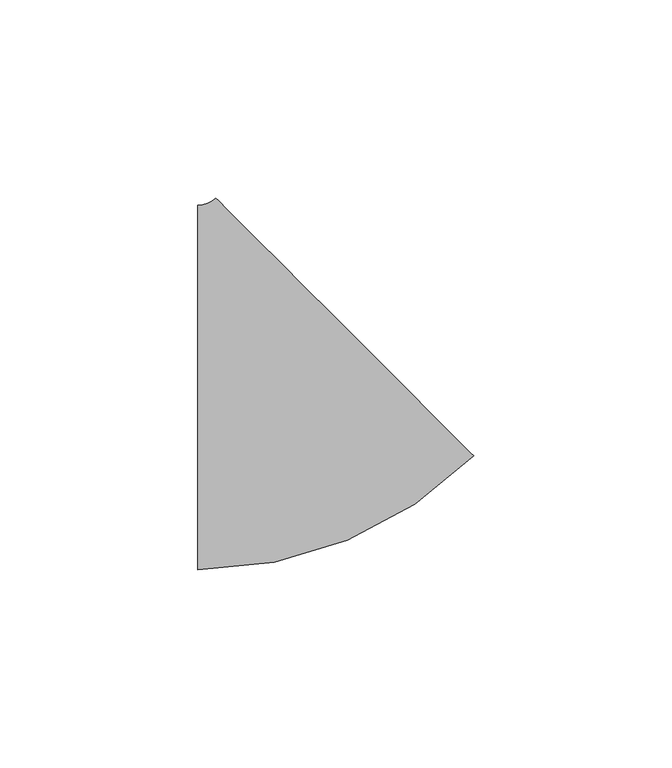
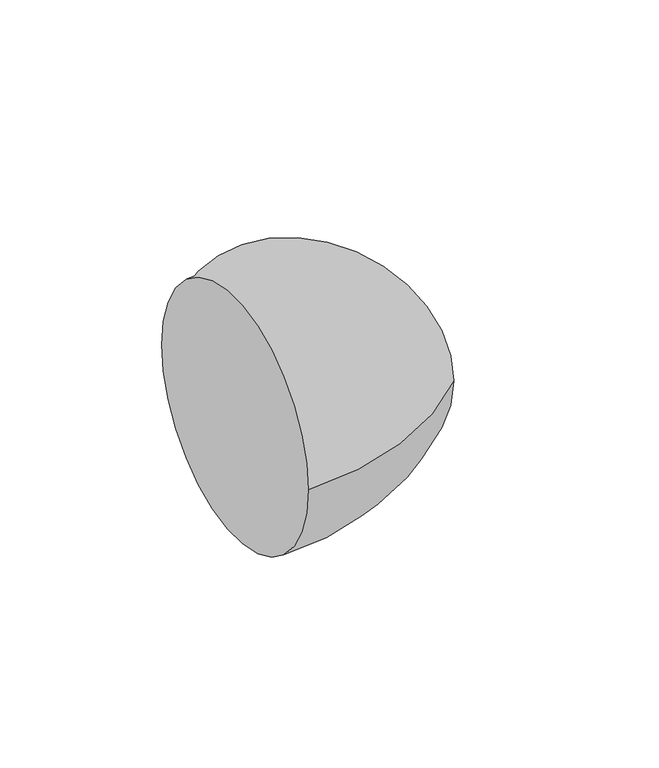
"""IFC4 building model written with IfcOpenShell, lengths in millimetres: pipe fitting geometry, M_Codo - Genérico : Estándar."""

from ifc_helpers import new_model, si_unit, point, frame, origin, place, context, project, spatial, circle_curve, ellipse_curve, trimmed, source, transform, mapped, element, save
from ifc_brep_helpers import plane_surface, revolved_surface, advanced_brep


def pipe_fitting_a7675664(model_context):
    return source(origin(), model_context, "Body", "AdvancedBrep", [
        advanced_brep(
        [(-21.699109, -46.0375, 0.0), (-21.699109, 46.0375, 0.0), (47.8967329, -17.2106279, 0.0), (-17.2090547, 47.8972982, 0.0)],
        [
            (0, 1, circle_curve(frame((-21.699109, 0.0, 0.0), z_axis=(-1.0, 0.0, 0.0), x_axis=(0.0, 1.0, 0.0)), 46.0375)),
            (1, 0, circle_curve(frame((-21.699109, 0.0, 0.0), z_axis=(-1.0, 0.0, 0.0), x_axis=(0.0, 1.0, 0.0)), 46.0375)),
            (2, 3, circle_curve(frame((15.3438391, 15.3433351, 0.0), z_axis=(0.7071183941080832, 0.707095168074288, 0.0), x_axis=(-0.707095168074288, 0.7071183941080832, 0.0)), 46.0375)),
            (3, 2, circle_curve(frame((15.3438391, 15.3433351, 0.0), z_axis=(0.7071183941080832, 0.707095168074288, 0.0), x_axis=(-0.707095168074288, 0.7071183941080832, 0.0)), 46.0375)),
            (3, 1, circle_curve(frame((-21.699109, 52.3875, 0.0), z_axis=(0.0, 0.0, -1.0), x_axis=(0.0, -1.0, 0.0)), 6.35)),
            (0, 2, circle_curve(frame((-21.699109, 52.3875, 0.0), z_axis=(0.0, 0.0, 1.0), x_axis=(0.0, -1.0, 0.0)), 98.425)),
        ],
        [
            plane_surface(frame((-21.699109, 0.0, 0.0), z_axis=(-1.0, 0.0, 0.0), x_axis=(0.0, 0.0, 1.0))),
            plane_surface(frame((15.3438391, 15.3433351, 0.0), z_axis=(0.7071183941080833, 0.7070951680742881, 0.0), x_axis=(0.0, 0.0, 1.0))),
            revolved_surface(trimmed(ellipse_curve(frame((-21.699109, 0.0, 0.0), z_axis=(-1.0, 0.0, 0.0), x_axis=(0.0, 1.0, 0.0)), 46.0375, 46.0375), [point((-21.699109, -46.0375, 0.0))], [point((-21.699109, 46.0375, 0.0))], True, "CARTESIAN"), (-21.699109, 52.3875, 0.0), (0.0, 0.0, 1.0)),
            revolved_surface(trimmed(ellipse_curve(frame((-21.699109, 0.0, 0.0), z_axis=(-1.0, 0.0, 0.0), x_axis=(0.0, 1.0, 0.0)), 46.0375, 46.0375), [point((-21.699109, 46.0375, 0.0))], [point((-21.699109, -46.0375, 0.0))], True, "CARTESIAN"), (-21.699109, 52.3875, 0.0), (0.0, 0.0, 1.0)),
        ],
        [
            (0, [[1, 2]]),
            (1, [[3, 4]]),
            (2, [[5, -1, 6, -4]]),
            (3, [[-6, -2, -5, -3]]),
        ],
    ),
    ])


if __name__ == "__main__":
    model = new_model("IFC4")
    model_context = context("Model", 3, world=origin())
    ifc_project = project(units=[si_unit("LENGTHUNIT", "METRE", prefix="MILLI")], contexts=[model_context])
    site = spatial("IfcSite", under=ifc_project)
    building = spatial("IfcBuilding", under=site)
    placement = place(None, origin())
    pipe_fitting_shape = pipe_fitting_a7675664(model_context)
    element("IfcPipeFitting", 1, ObjectType="M_Codo - Genérico : Estándar", at=placement, inside=building, context=model_context, shape_type="MappedRepresentation", body=[
        mapped(pipe_fitting_shape, transform((0.0, 0.0, 0.0), x_axis=(1.0, 0.0, 0.0), y_axis=(0.0, 1.0, 0.0), z_axis=(0.0, 0.0, 1.0))),
    ])
    save(model, "model.ifc")
